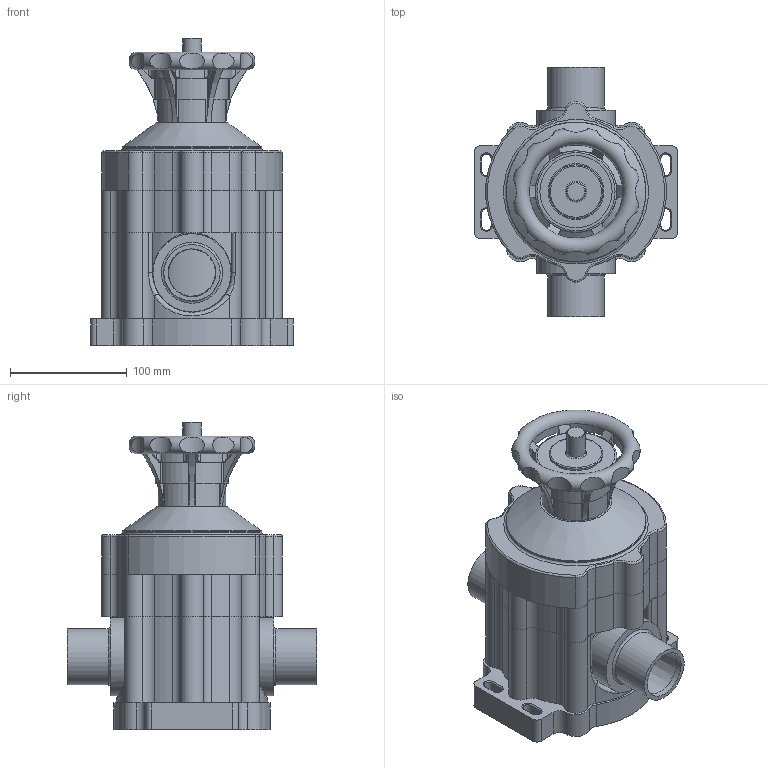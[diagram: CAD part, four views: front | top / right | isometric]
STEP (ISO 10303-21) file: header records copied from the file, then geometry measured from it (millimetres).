
FILE_DESCRIPTION(/* description */ (''),/* implementation_level */ '2;1');
FILE_NAME(/* name */ '40A MV Assy_stp.stp',/* time_stamp */ '2019-10-04T16:24:02+09:00',/* author */ (''),/* organization */ (''),/* preprocessor_version */ 'ST-DEVELOPER v11',/* originating_system */ 'SIEMENS PLM Software NX 7.5',/* authorisation */ '');
FILE_SCHEMA (('AUTOMOTIVE_DESIGN { 1 0 10303 214 1 1 1 1 }'));
Length unit declared in the file: millimetre
Products named in the file (5): 40A Base Assy12; PC CAP(50A); Handle_50A(1); Top Case(50A); 40A MV Assy_stp
Assembly tree (4 placements, depth 2):
  40A MV Assy_stp
    Top Case(50A)
    Handle_50A(1)
    PC CAP(50A)
    40A Base Assy12
Bounding box: 174 x 214 x 263.5 mm (x, y, z)
Volume: 3223187.2 mm3; surface area: 372960 mm2
Topology: 6 solids, 6 shells, 769 faces, 1986 edges, 1239 vertices
Faces by surface type: cylinder 285, plane 254, bspline 94, torus 59, cone 45, sphere 32
Full cylindrical faces by diameter (mm): 6.5 x6, 11 x6, 16 x1, 20 x1, 25 x1, 41 x2, 45 x1, 46 x1, 48.3 x2, 59 x1, 63 x1, 65 x1, 67 x2, 70 x1, 95 x1, 104 x1, 105.588 x1, 119 x1, 120 x1
Entity records: 27214 total; most frequent: CARTESIAN_POINT 9000, DIRECTION 3855, ORIENTED_EDGE 3754, EDGE_CURVE 1877, AXIS2_PLACEMENT_3D 1568, VERTEX_POINT 1204, EDGE_LOOP 885, CIRCLE 869
